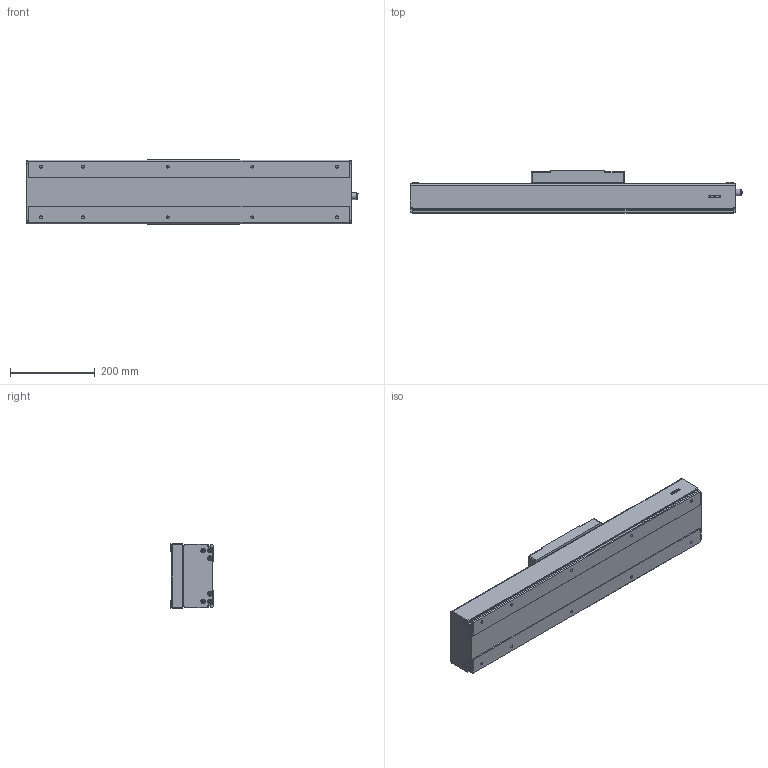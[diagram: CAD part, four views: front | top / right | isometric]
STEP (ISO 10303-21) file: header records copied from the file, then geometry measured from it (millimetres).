
FILE_DESCRIPTION(/* description */ (''),/* implementation_level */ '2;1');
FILE_NAME(/* name */ 'D:\混合母檔20191031\混和母檔\混和母檔\bin\Debug\Download\3D\KS150-10C-250AFI\KS150-10C-250AFI.stp',/* time_stamp */ '2019-11-04T15:43:28+08:00',/* author */ ('user'),/* organization */ (''),/* preprocessor_version */ 'ST-DEVELOPER v16.13',/* originating_system */ 'Autodesk Inventor 2018',/* authorisation */ '');
FILE_SCHEMA (('AUTOMOTIVE_DESIGN { 1 0 10303 214 3 1 1 }'));
Length unit declared in the file: millimetre
Products named in the file (3): KS150-10C-250AFI; KS150-FI; KS150-SL
Assembly tree (2 placements, depth 2):
  KS150-10C-250AFI
    KS150-FI
    KS150-SL
Bounding box: 785.05 x 100 x 152.4 mm (x, y, z)
Volume: 3614487 mm3; surface area: 833229.8 mm2
Topology: 4 solids, 8 shells, 1233 faces, 3255 edges, 2112 vertices
Faces by surface type: plane 615, cone 224, cylinder 186, bspline 136, torus 68, sphere 4
Full cylindrical faces by diameter (mm): 3.242 x12, 3.571 x8, 4.134 x4, 4.5 x8, 4.509 x6, 4.917 x4, 5 x18, 5.5 x12, 6 x2, 6.647 x14, 8 x4, 8.4 x8, 9.3 x12, 10.437 x1, 12 x1, 14 x1, 15 x1, 15.538 x1, 23 x1, 46 x1, 50 x1
Entity records: 40808 total; most frequent: CARTESIAN_POINT 12696, ORIENTED_EDGE 5824, DIRECTION 5393, EDGE_CURVE 2912, VERTEX_POINT 2008, AXIS2_PLACEMENT_3D 1864, LINE 1665, VECTOR 1665
